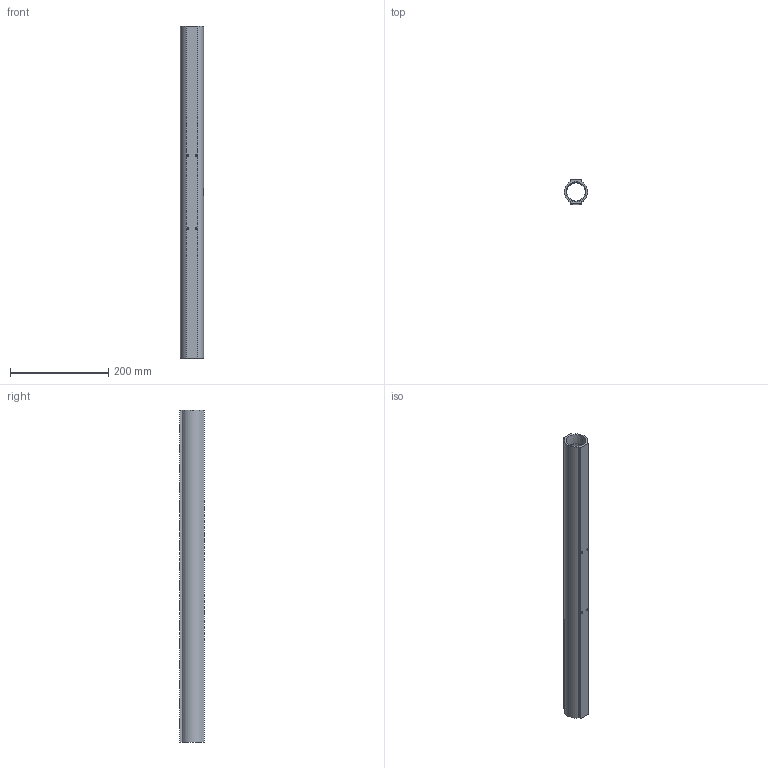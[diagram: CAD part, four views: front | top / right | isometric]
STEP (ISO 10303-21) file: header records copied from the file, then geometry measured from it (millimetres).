
FILE_DESCRIPTION (( 'STEP AP214' ), '1' );
FILE_NAME ('BWM16620B.STEP', '2022-03-15T05:38:13', ( '' ), ( '' ), 'SwSTEP 2.0', 'SolidWorks 2020', '' );
FILE_SCHEMA (( 'AUTOMOTIVE_DESIGN' ));
Length unit declared in the file: millimetre
Products named in the file (1): BWM16620B
Bounding box: 47 x 50 x 676 mm (x, y, z)
Volume: 463402.6 mm3; surface area: 192834.7 mm2
Topology: 1 solids, 1 shells, 243 faces, 655 edges, 430 vertices
Faces by surface type: plane 99, bspline 57, cone 44, cylinder 43
Entity records: 14333 total; most frequent: CARTESIAN_POINT 6540, ORIENTED_EDGE 1294, DIRECTION 855, EDGE_CURVE 647, VERTEX_POINT 430, VECTOR 309, LINE 309, EDGE_LOOP 301
